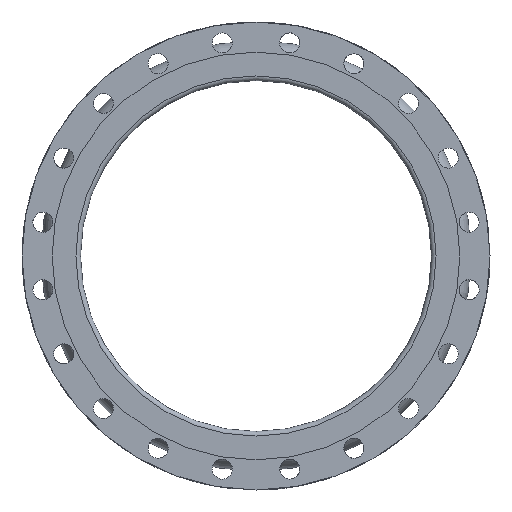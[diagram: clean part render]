
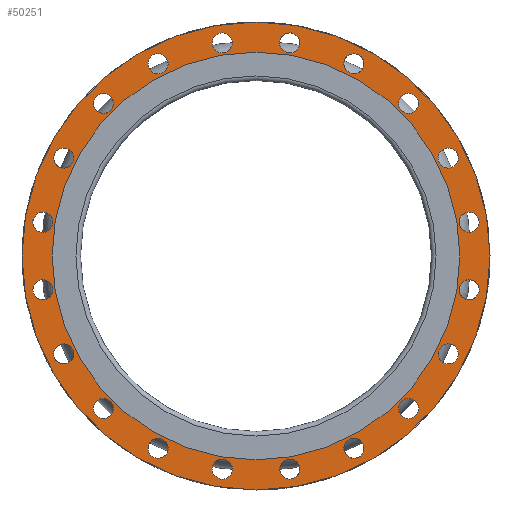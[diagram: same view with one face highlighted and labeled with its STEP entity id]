
A CAD part, left-side view. The second image highlights one B-rep face of the part: STEP entity #50251.
In plain terms, the highlighted planar face has unit normal (-1, 0, 0).
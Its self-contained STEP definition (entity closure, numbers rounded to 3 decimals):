
#11516=PLANE('',#53089);
#12812=FACE_BOUND('',#16165,.T.);
#12813=FACE_BOUND('',#16166,.T.);
#12814=FACE_BOUND('',#16167,.T.);
#12815=FACE_BOUND('',#16168,.T.);
#12816=FACE_BOUND('',#16169,.T.);
#12817=FACE_BOUND('',#16170,.T.);
#12818=FACE_BOUND('',#16171,.T.);
#12819=FACE_BOUND('',#16172,.T.);
#12820=FACE_BOUND('',#16173,.T.);
#12821=FACE_BOUND('',#16174,.T.);
#12822=FACE_BOUND('',#16175,.T.);
#12823=FACE_BOUND('',#16176,.T.);
#12824=FACE_BOUND('',#16177,.T.);
#12825=FACE_BOUND('',#16178,.T.);
#12826=FACE_BOUND('',#16179,.T.);
#12827=FACE_BOUND('',#16180,.T.);
#12828=FACE_BOUND('',#16181,.T.);
#12829=FACE_BOUND('',#16182,.T.);
#12830=FACE_BOUND('',#16183,.T.);
#12831=FACE_BOUND('',#16184,.T.);
#12832=FACE_BOUND('',#16185,.T.);
#13378=FACE_OUTER_BOUND('',#16164,.T.);
#16164=EDGE_LOOP('',(#32604));
#16165=EDGE_LOOP('',(#32605));
#16166=EDGE_LOOP('',(#32606));
#16167=EDGE_LOOP('',(#32607));
#16168=EDGE_LOOP('',(#32608));
#16169=EDGE_LOOP('',(#32609));
#16170=EDGE_LOOP('',(#32610));
#16171=EDGE_LOOP('',(#32611));
#16172=EDGE_LOOP('',(#32612));
#16173=EDGE_LOOP('',(#32613));
#16174=EDGE_LOOP('',(#32614));
#16175=EDGE_LOOP('',(#32615));
#16176=EDGE_LOOP('',(#32616));
#16177=EDGE_LOOP('',(#32617));
#16178=EDGE_LOOP('',(#32618));
#16179=EDGE_LOOP('',(#32619));
#16180=EDGE_LOOP('',(#32620));
#16181=EDGE_LOOP('',(#32621));
#16182=EDGE_LOOP('',(#32622));
#16183=EDGE_LOOP('',(#32623));
#16184=EDGE_LOOP('',(#32624));
#16185=EDGE_LOOP('',(#32625));
#19397=CIRCLE('',#52971,0.688);
#19399=CIRCLE('',#52974,0.688);
#19401=CIRCLE('',#52977,0.688);
#19403=CIRCLE('',#52980,0.688);
#19405=CIRCLE('',#52983,0.688);
#19407=CIRCLE('',#52986,0.688);
#19409=CIRCLE('',#52989,0.688);
#19411=CIRCLE('',#52992,0.688);
#19413=CIRCLE('',#52995,0.688);
#19415=CIRCLE('',#52998,0.688);
#19417=CIRCLE('',#53001,0.688);
#19419=CIRCLE('',#53004,0.688);
#19421=CIRCLE('',#53007,0.688);
#19423=CIRCLE('',#53010,0.688);
#19425=CIRCLE('',#53013,0.688);
#19427=CIRCLE('',#53016,0.688);
#19429=CIRCLE('',#53019,0.688);
#19431=CIRCLE('',#53022,0.688);
#19433=CIRCLE('',#53025,0.688);
#19435=CIRCLE('',#53028,0.688);
#19476=CIRCLE('',#53090,16.);
#19477=CIRCLE('',#53091,13.938);
#20393=VERTEX_POINT('',#65451);
#20395=VERTEX_POINT('',#65456);
#20397=VERTEX_POINT('',#65461);
#20399=VERTEX_POINT('',#65466);
#20401=VERTEX_POINT('',#65471);
#20403=VERTEX_POINT('',#65476);
#20405=VERTEX_POINT('',#65481);
#20407=VERTEX_POINT('',#65486);
#20409=VERTEX_POINT('',#65491);
#20411=VERTEX_POINT('',#65496);
#20413=VERTEX_POINT('',#65501);
#20415=VERTEX_POINT('',#65506);
#20417=VERTEX_POINT('',#65511);
#20419=VERTEX_POINT('',#65516);
#20421=VERTEX_POINT('',#65521);
#20423=VERTEX_POINT('',#65526);
#20425=VERTEX_POINT('',#65531);
#20427=VERTEX_POINT('',#65536);
#20429=VERTEX_POINT('',#65541);
#20431=VERTEX_POINT('',#65546);
#20472=VERTEX_POINT('',#65649);
#20473=VERTEX_POINT('',#65651);
#25289=EDGE_CURVE('',#20393,#20393,#19397,.T.);
#25291=EDGE_CURVE('',#20395,#20395,#19399,.T.);
#25293=EDGE_CURVE('',#20397,#20397,#19401,.T.);
#25295=EDGE_CURVE('',#20399,#20399,#19403,.T.);
#25297=EDGE_CURVE('',#20401,#20401,#19405,.T.);
#25299=EDGE_CURVE('',#20403,#20403,#19407,.T.);
#25301=EDGE_CURVE('',#20405,#20405,#19409,.T.);
#25303=EDGE_CURVE('',#20407,#20407,#19411,.T.);
#25305=EDGE_CURVE('',#20409,#20409,#19413,.T.);
#25307=EDGE_CURVE('',#20411,#20411,#19415,.T.);
#25309=EDGE_CURVE('',#20413,#20413,#19417,.T.);
#25311=EDGE_CURVE('',#20415,#20415,#19419,.T.);
#25313=EDGE_CURVE('',#20417,#20417,#19421,.T.);
#25315=EDGE_CURVE('',#20419,#20419,#19423,.T.);
#25317=EDGE_CURVE('',#20421,#20421,#19425,.T.);
#25319=EDGE_CURVE('',#20423,#20423,#19427,.T.);
#25321=EDGE_CURVE('',#20425,#20425,#19429,.T.);
#25323=EDGE_CURVE('',#20427,#20427,#19431,.T.);
#25325=EDGE_CURVE('',#20429,#20429,#19433,.T.);
#25327=EDGE_CURVE('',#20431,#20431,#19435,.T.);
#25368=EDGE_CURVE('',#20472,#20472,#19476,.T.);
#25369=EDGE_CURVE('',#20473,#20473,#19477,.T.);
#32604=ORIENTED_EDGE('',*,*,#25368,.F.);
#32605=ORIENTED_EDGE('',*,*,#25289,.T.);
#32606=ORIENTED_EDGE('',*,*,#25291,.T.);
#32607=ORIENTED_EDGE('',*,*,#25293,.T.);
#32608=ORIENTED_EDGE('',*,*,#25295,.T.);
#32609=ORIENTED_EDGE('',*,*,#25297,.T.);
#32610=ORIENTED_EDGE('',*,*,#25299,.T.);
#32611=ORIENTED_EDGE('',*,*,#25301,.T.);
#32612=ORIENTED_EDGE('',*,*,#25303,.T.);
#32613=ORIENTED_EDGE('',*,*,#25305,.T.);
#32614=ORIENTED_EDGE('',*,*,#25307,.T.);
#32615=ORIENTED_EDGE('',*,*,#25309,.T.);
#32616=ORIENTED_EDGE('',*,*,#25311,.T.);
#32617=ORIENTED_EDGE('',*,*,#25313,.T.);
#32618=ORIENTED_EDGE('',*,*,#25315,.T.);
#32619=ORIENTED_EDGE('',*,*,#25317,.T.);
#32620=ORIENTED_EDGE('',*,*,#25319,.T.);
#32621=ORIENTED_EDGE('',*,*,#25321,.T.);
#32622=ORIENTED_EDGE('',*,*,#25323,.T.);
#32623=ORIENTED_EDGE('',*,*,#25325,.T.);
#32624=ORIENTED_EDGE('',*,*,#25327,.T.);
#32625=ORIENTED_EDGE('',*,*,#25369,.T.);
#50251=ADVANCED_FACE('',(#13378,#12812,#12813,#12814,#12815,#12816,#12817,
#12818,#12819,#12820,#12821,#12822,#12823,#12824,#12825,#12826,#12827,#12828,
#12829,#12830,#12831,#12832),#11516,.T.);
#52971=AXIS2_PLACEMENT_3D('',#65452,#55727,#55728);
#52974=AXIS2_PLACEMENT_3D('',#65457,#55733,#55734);
#52977=AXIS2_PLACEMENT_3D('',#65462,#55739,#55740);
#52980=AXIS2_PLACEMENT_3D('',#65467,#55745,#55746);
#52983=AXIS2_PLACEMENT_3D('',#65472,#55751,#55752);
#52986=AXIS2_PLACEMENT_3D('',#65477,#55757,#55758);
#52989=AXIS2_PLACEMENT_3D('',#65482,#55763,#55764);
#52992=AXIS2_PLACEMENT_3D('',#65487,#55769,#55770);
#52995=AXIS2_PLACEMENT_3D('',#65492,#55775,#55776);
#52998=AXIS2_PLACEMENT_3D('',#65497,#55781,#55782);
#53001=AXIS2_PLACEMENT_3D('',#65502,#55787,#55788);
#53004=AXIS2_PLACEMENT_3D('',#65507,#55793,#55794);
#53007=AXIS2_PLACEMENT_3D('',#65512,#55799,#55800);
#53010=AXIS2_PLACEMENT_3D('',#65517,#55805,#55806);
#53013=AXIS2_PLACEMENT_3D('',#65522,#55811,#55812);
#53016=AXIS2_PLACEMENT_3D('',#65527,#55817,#55818);
#53019=AXIS2_PLACEMENT_3D('',#65532,#55823,#55824);
#53022=AXIS2_PLACEMENT_3D('',#65537,#55829,#55830);
#53025=AXIS2_PLACEMENT_3D('',#65542,#55835,#55836);
#53028=AXIS2_PLACEMENT_3D('',#65547,#55841,#55842);
#53089=AXIS2_PLACEMENT_3D('',#65648,#55963,#55964);
#53090=AXIS2_PLACEMENT_3D('',#65650,#55965,#55966);
#53091=AXIS2_PLACEMENT_3D('',#65652,#55967,#55968);
#55727=DIRECTION('center_axis',(1.,0.,0.));
#55728=DIRECTION('ref_axis',(0.,-0.309,-0.951));
#55733=DIRECTION('center_axis',(1.,0.,0.));
#55734=DIRECTION('ref_axis',(0.,-0.588,-0.809));
#55739=DIRECTION('center_axis',(1.,0.,0.));
#55740=DIRECTION('ref_axis',(0.,-0.809,-0.588));
#55745=DIRECTION('center_axis',(1.,0.,0.));
#55746=DIRECTION('ref_axis',(0.,-0.951,-0.309));
#55751=DIRECTION('center_axis',(1.,0.,0.));
#55752=DIRECTION('ref_axis',(0.,-1.,0.));
#55757=DIRECTION('center_axis',(1.,0.,0.));
#55758=DIRECTION('ref_axis',(0.,-0.951,0.309));
#55763=DIRECTION('center_axis',(1.,0.,0.));
#55764=DIRECTION('ref_axis',(0.,-0.809,0.588));
#55769=DIRECTION('center_axis',(1.,0.,0.));
#55770=DIRECTION('ref_axis',(0.,-0.588,0.809));
#55775=DIRECTION('center_axis',(1.,0.,0.));
#55776=DIRECTION('ref_axis',(0.,-0.309,0.951));
#55781=DIRECTION('center_axis',(1.,0.,0.));
#55782=DIRECTION('ref_axis',(0.,0.,1.));
#55787=DIRECTION('center_axis',(1.,0.,0.));
#55788=DIRECTION('ref_axis',(0.,0.309,0.951));
#55793=DIRECTION('center_axis',(1.,0.,0.));
#55794=DIRECTION('ref_axis',(0.,0.588,0.809));
#55799=DIRECTION('center_axis',(1.,0.,0.));
#55800=DIRECTION('ref_axis',(0.,0.809,0.588));
#55805=DIRECTION('center_axis',(1.,0.,0.));
#55806=DIRECTION('ref_axis',(0.,0.951,0.309));
#55811=DIRECTION('center_axis',(1.,0.,0.));
#55812=DIRECTION('ref_axis',(0.,1.,0.));
#55817=DIRECTION('center_axis',(1.,0.,0.));
#55818=DIRECTION('ref_axis',(0.,0.951,-0.309));
#55823=DIRECTION('center_axis',(1.,0.,0.));
#55824=DIRECTION('ref_axis',(0.,0.809,-0.588));
#55829=DIRECTION('center_axis',(1.,0.,0.));
#55830=DIRECTION('ref_axis',(0.,0.588,-0.809));
#55835=DIRECTION('center_axis',(1.,0.,0.));
#55836=DIRECTION('ref_axis',(0.,0.309,-0.951));
#55841=DIRECTION('center_axis',(1.,0.,0.));
#55842=DIRECTION('ref_axis',(0.,0.,-1.));
#55963=DIRECTION('center_axis',(-1.,0.,0.));
#55964=DIRECTION('ref_axis',(0.,0.,1.));
#55965=DIRECTION('center_axis',(1.,0.,0.));
#55966=DIRECTION('ref_axis',(0.,0.,-1.));
#55967=DIRECTION('center_axis',(1.,0.,0.));
#55968=DIRECTION('ref_axis',(0.,0.,-1.));
#65451=CARTESIAN_POINT('',(-7.,13.355,-6.043));
#65452=CARTESIAN_POINT('Origin',(-7.,13.142,-6.696));
#65456=CARTESIAN_POINT('',(-7.,10.834,-9.874));
#65457=CARTESIAN_POINT('Origin',(-7.,10.43,-10.43));
#65461=CARTESIAN_POINT('',(-7.,7.253,-12.738));
#65462=CARTESIAN_POINT('Origin',(-7.,6.696,-13.142));
#65466=CARTESIAN_POINT('',(-7.,2.961,-14.356));
#65467=CARTESIAN_POINT('Origin',(-7.,2.307,-14.568));
#65471=CARTESIAN_POINT('',(-7.,-1.62,-14.568));
#65472=CARTESIAN_POINT('Origin',(-7.,-2.307,-14.568));
#65476=CARTESIAN_POINT('',(-7.,-6.043,-13.355));
#65477=CARTESIAN_POINT('Origin',(-7.,-6.696,-13.142));
#65481=CARTESIAN_POINT('',(-7.,-9.874,-10.834));
#65482=CARTESIAN_POINT('Origin',(-7.,-10.43,-10.43));
#65486=CARTESIAN_POINT('',(-7.,-12.738,-7.253));
#65487=CARTESIAN_POINT('Origin',(-7.,-13.142,-6.696));
#65491=CARTESIAN_POINT('',(-7.,-14.356,-2.961));
#65492=CARTESIAN_POINT('Origin',(-7.,-14.568,-2.307));
#65496=CARTESIAN_POINT('',(-7.,-14.568,1.62));
#65497=CARTESIAN_POINT('Origin',(-7.,-14.568,2.307));
#65501=CARTESIAN_POINT('',(-7.,-13.355,6.043));
#65502=CARTESIAN_POINT('Origin',(-7.,-13.142,6.696));
#65506=CARTESIAN_POINT('',(-7.,-10.834,9.874));
#65507=CARTESIAN_POINT('Origin',(-7.,-10.43,10.43));
#65511=CARTESIAN_POINT('',(-7.,-7.253,12.738));
#65512=CARTESIAN_POINT('Origin',(-7.,-6.696,13.142));
#65516=CARTESIAN_POINT('',(-7.,-2.961,14.356));
#65517=CARTESIAN_POINT('Origin',(-7.,-2.307,14.568));
#65521=CARTESIAN_POINT('',(-7.,1.62,14.568));
#65522=CARTESIAN_POINT('Origin',(-7.,2.307,14.568));
#65526=CARTESIAN_POINT('',(-7.,6.043,13.355));
#65527=CARTESIAN_POINT('Origin',(-7.,6.696,13.142));
#65531=CARTESIAN_POINT('',(-7.,9.874,10.834));
#65532=CARTESIAN_POINT('Origin',(-7.,10.43,10.43));
#65536=CARTESIAN_POINT('',(-7.,12.738,7.253));
#65537=CARTESIAN_POINT('Origin',(-7.,13.142,6.696));
#65541=CARTESIAN_POINT('',(-7.,14.356,2.961));
#65542=CARTESIAN_POINT('Origin',(-7.,14.568,2.307));
#65546=CARTESIAN_POINT('',(-7.,14.568,-1.62));
#65547=CARTESIAN_POINT('Origin',(-7.,14.568,-2.307));
#65648=CARTESIAN_POINT('Origin',(-7.,16.,0.));
#65649=CARTESIAN_POINT('',(-7.,16.,0.));
#65650=CARTESIAN_POINT('Origin',(-7.,0.,0.));
#65651=CARTESIAN_POINT('',(-7.,13.938,0.));
#65652=CARTESIAN_POINT('Origin',(-7.,0.,0.));
